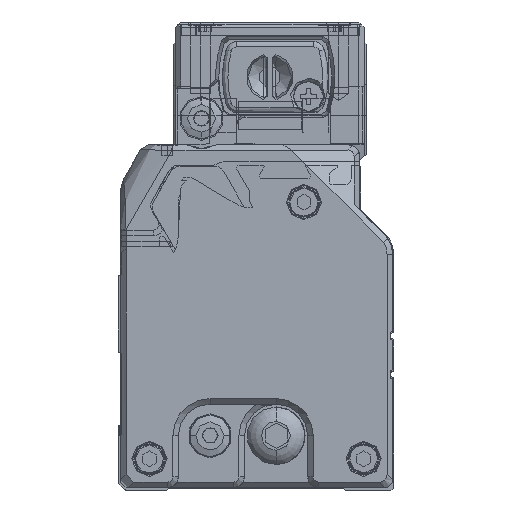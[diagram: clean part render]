
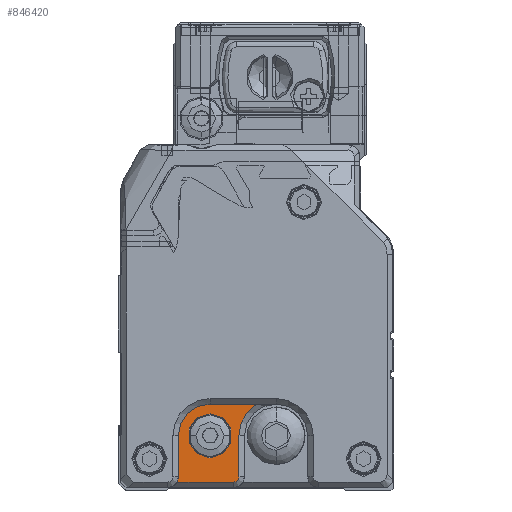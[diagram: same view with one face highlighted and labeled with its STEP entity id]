
A CAD part, left-side view. The second image highlights one B-rep face of the part: STEP entity #846420.
In plain terms, the highlighted planar face has unit normal (-1, 0, 0) as drawn and (1, 0, 0) by its records, which use the part's own axes.
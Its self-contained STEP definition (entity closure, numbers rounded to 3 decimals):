
#844870=CARTESIAN_POINT('',(6064.177,2.462,
3.148));
#844880=DIRECTION('',(-1.,0.,0.));
#844890=DIRECTION('',(0.,1.,0.));
#844900=AXIS2_PLACEMENT_3D('',#844870,#844880,#844890);
#844910=CIRCLE('',#844900,5.75);
#844920=CARTESIAN_POINT('',(6064.177,8.212,
3.148));
#844930=VERTEX_POINT('',#844920);
#844940=CARTESIAN_POINT('',(6064.177,2.462,
-2.602));
#844950=VERTEX_POINT('',#844940);
#844960=EDGE_CURVE('',#844930,#844950,#844910,.T.);
#845370=CARTESIAN_POINT('',(6064.177,8.212,
3.148));
#845380=DIRECTION('',(0.,0.,1.));
#845390=VECTOR('',#845380,1.);
#845400=LINE('',#845370,#845390);
#845410=CARTESIAN_POINT('',(6064.177,8.212,
10.598));
#845420=VERTEX_POINT('',#845410);
#845430=EDGE_CURVE('',#844930,#845420,#845400,.T.);
#845690=CARTESIAN_POINT('',(6064.177,-5.938,
-12.8));
#845700=DIRECTION('',(-1.,0.,0.));
#845710=DIRECTION('',(0.,0.,-1.));
#845720=AXIS2_PLACEMENT_3D('',#845690,#845700,#845710);
#845730=PLANE('',#845720);
#845740=CARTESIAN_POINT('',(6064.177,4.212,
11.598));
#845750=DIRECTION('',(0.,-1.,0.));
#845760=VECTOR('',#845750,1.);
#845770=LINE('',#845740,#845760);
#845780=CARTESIAN_POINT('',(6064.177,8.48,
11.598));
#845790=VERTEX_POINT('',#845780);
#845800=CARTESIAN_POINT('',(6064.177,-1.788,
11.598));
#845810=VERTEX_POINT('',#845800);
#845820=EDGE_CURVE('',#845790,#845810,#845770,.T.);
#845830=ORIENTED_EDGE('',*,*,#845820,.T.);
#845840=CARTESIAN_POINT('',(6064.177,10.212,
10.598));
#845850=DIRECTION('',(-1.,0.,0.));
#845860=DIRECTION('',(0.,1.,0.));
#845870=AXIS2_PLACEMENT_3D('',#845840,#845850,#845860);
#845880=CIRCLE('',#845870,2.);
#845890=EDGE_CURVE('',#845420,#845790,#845880,.T.);
#845900=ORIENTED_EDGE('',*,*,#845890,.T.);
#845910=ORIENTED_EDGE('',*,*,#845430,.T.);
#845920=ORIENTED_EDGE('',*,*,#844960,.F.);
#845930=CARTESIAN_POINT('',(6064.177,-5.888,
-2.602));
#845940=DIRECTION('',(0.,1.,0.));
#845950=VECTOR('',#845940,1.);
#845960=LINE('',#845930,#845950);
#845970=CARTESIAN_POINT('',(6064.177,-6.002,
-2.602));
#845980=VERTEX_POINT('',#845970);
#845990=EDGE_CURVE('',#845980,#844950,#845960,.T.);
#846000=ORIENTED_EDGE('',*,*,#845990,.T.);
#846010=CARTESIAN_POINT('',(6064.177,-9.538,
3.148));
#846020=DIRECTION('',(-1.,0.,0.));
#846030=DIRECTION('',(0.,1.,0.));
#846040=AXIS2_PLACEMENT_3D('',#846010,#846020,#846030);
#846050=CIRCLE('',#846040,6.75);
#846060=CARTESIAN_POINT('',(6064.177,-2.788,
3.148));
#846070=VERTEX_POINT('',#846060);
#846080=EDGE_CURVE('',#846070,#845980,#846050,.T.);
#846090=ORIENTED_EDGE('',*,*,#846080,.T.);
#846100=CARTESIAN_POINT('',(6064.177,-2.788,
6.873));
#846110=DIRECTION('',(0.,0.,-1.));
#846120=VECTOR('',#846110,1.);
#846130=LINE('',#846100,#846120);
#846140=CARTESIAN_POINT('',(6064.177,-2.788,
10.598));
#846150=VERTEX_POINT('',#846140);
#846160=EDGE_CURVE('',#846150,#846070,#846130,.T.);
#846170=ORIENTED_EDGE('',*,*,#846160,.T.);
#846180=CARTESIAN_POINT('',(6064.177,-1.788,
10.598));
#846190=DIRECTION('',(-1.,0.,0.));
#846200=DIRECTION('',(0.,1.,0.));
#846210=AXIS2_PLACEMENT_3D('',#846180,#846190,#846200);
#846220=CIRCLE('',#846210,1.);
#846230=EDGE_CURVE('',#846150,#845810,#846220,.T.);
#846240=ORIENTED_EDGE('',*,*,#846230,.F.);
#846250=EDGE_LOOP('',(#846240,#846170,#846090,#846000,#845920,#845910,
#845900,#845830));
#846260=FACE_OUTER_BOUND('',#846250,.T.);
#846270=CARTESIAN_POINT('',(6064.177,2.462,
3.148));
#846280=DIRECTION('',(-1.,0.,0.));
#846290=DIRECTION('',(0.,0.,-1.));
#846300=AXIS2_PLACEMENT_3D('',#846270,#846280,#846290);
#846310=CIRCLE('',#846300,4.);
#846320=CARTESIAN_POINT('',(6064.177,2.462,
7.148));
#846330=VERTEX_POINT('',#846320);
#846340=CARTESIAN_POINT('',(6064.177,2.462,
-0.852));
#846350=VERTEX_POINT('',#846340);
#846360=EDGE_CURVE('',#846330,#846350,#846310,.T.);
#846370=ORIENTED_EDGE('',*,*,#846360,.T.);
#846380=EDGE_CURVE('',#846350,#846330,#846310,.T.);
#846390=ORIENTED_EDGE('',*,*,#846380,.T.);
#846400=EDGE_LOOP('',(#846390,#846370));
#846410=FACE_BOUND('',#846400,.T.);
#846420=ADVANCED_FACE('',(#846260,#846410),#845730,.F.);
